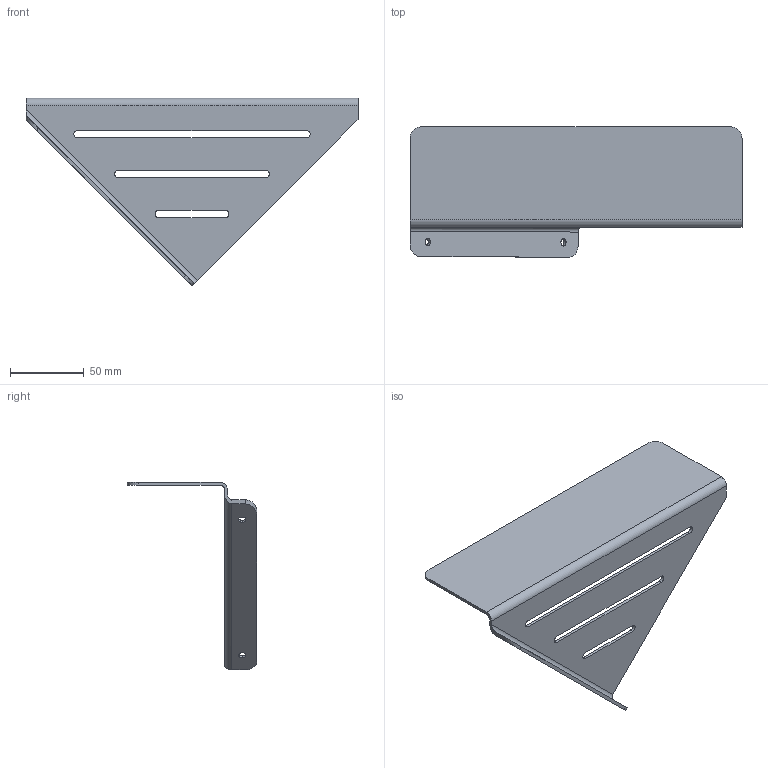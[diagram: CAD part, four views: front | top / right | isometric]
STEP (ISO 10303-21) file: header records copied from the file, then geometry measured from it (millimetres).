
FILE_DESCRIPTION((''),'2;1');
FILE_NAME('20210721-5301AA','2022-05-05T14:30:25',('Administrator'),(''),'CREO PARAMETRIC BY PTC INC, 2019471','CREO PARAMETRIC BY PTC INC, 2019471','');
FILE_SCHEMA(('CONFIG_CONTROL_DESIGN'));
Length unit declared in the file: millimetre
Products named in the file (1): 20210721-5301AA
Bounding box: 224.96 x 88 x 127.28 mm (x, y, z)
Volume: 63422.5 mm3; surface area: 66240.8 mm2
Topology: 1 solids, 1 shells, 35 faces, 99 edges, 66 vertices
Faces by surface type: cylinder 18, plane 17
Entity records: 1216 total; most frequent: CARTESIAN_POINT 221, ORIENTED_EDGE 198, DIRECTION 197, EDGE_CURVE 99, AXIS2_PLACEMENT_3D 67, VERTEX_POINT 66, VECTOR 63, LINE 63
